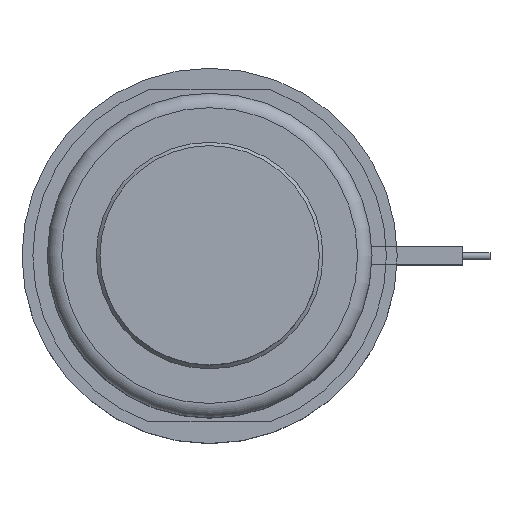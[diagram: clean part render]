
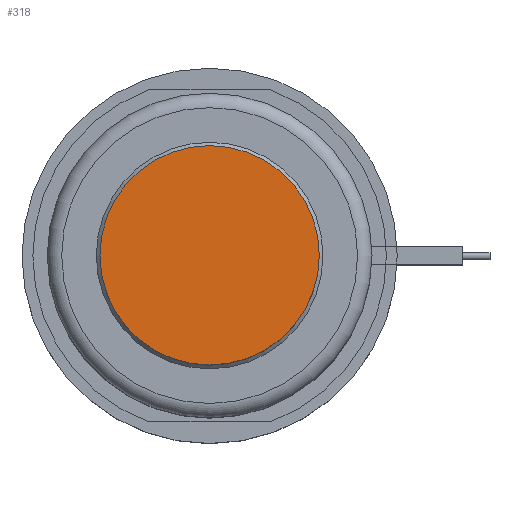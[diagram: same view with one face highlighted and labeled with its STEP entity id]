
A CAD part, top view. The second image highlights one B-rep face of the part: STEP entity #318.
In plain terms, the highlighted planar face has unit normal (0, 0, 1).
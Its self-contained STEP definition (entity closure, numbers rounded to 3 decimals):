
#318=ADVANCED_FACE('',(#517),#380,.F.);
#380=PLANE('',#1366);
#517=FACE_OUTER_BOUND('',#625,.T.);
#625=EDGE_LOOP('',(#855));
#855=ORIENTED_EDGE('',*,*,#1143,.F.);
#1017=VERTEX_POINT('',#2117);
#1143=EDGE_CURVE('',#1017,#1017,#1240,.T.);
#1240=CIRCLE('',#1365,15.2);
#1365=AXIS2_PLACEMENT_3D('',#2116,#1659,#1660);
#1366=AXIS2_PLACEMENT_3D('',#2118,#1661,#1662);
#1659=DIRECTION('',(0.,0.,-1.));
#1660=DIRECTION('',(-1.,0.,0.));
#1661=DIRECTION('',(0.,0.,-1.));
#1662=DIRECTION('',(-1.,0.,0.));
#2116=CARTESIAN_POINT('',(0.,0.,18.));
#2117=CARTESIAN_POINT('',(-15.2,0.,18.));
#2118=CARTESIAN_POINT('',(0.,0.,18.));
